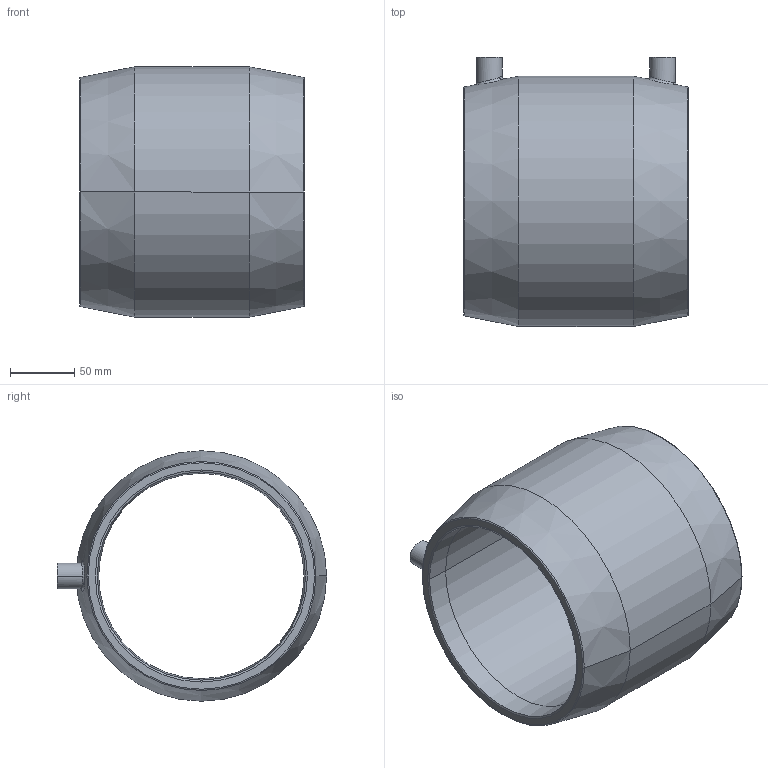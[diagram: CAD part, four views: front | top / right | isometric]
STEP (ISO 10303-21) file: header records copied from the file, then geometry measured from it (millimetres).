
FILE_DESCRIPTION (( 'STEP AP214' ), '1' );
FILE_NAME ('CBKHA160.STEP', '2018-09-19T14:22:56', ( '' ), ( '' ), 'SwSTEP 2.0', 'SolidWorks 2017', '' );
FILE_SCHEMA (( 'AUTOMOTIVE_DESIGN' ));
Length unit declared in the file: millimetre
Products named in the file (1): CBKHA160
Bounding box: 175 x 209.6 x 195 mm (x, y, z)
Volume: 1488756 mm3; surface area: 205597.7 mm2
Topology: 1 solids, 1 shells, 48 faces, 106 edges, 64 vertices
Faces by surface type: cylinder 16, cone 16, plane 8, bspline 4, torus 4
Entity records: 2407 total; most frequent: CARTESIAN_POINT 1200, DIRECTION 236, ORIENTED_EDGE 212, EDGE_CURVE 106, AXIS2_PLACEMENT_3D 101, VERTEX_POINT 64, CIRCLE 56, EDGE_LOOP 54
